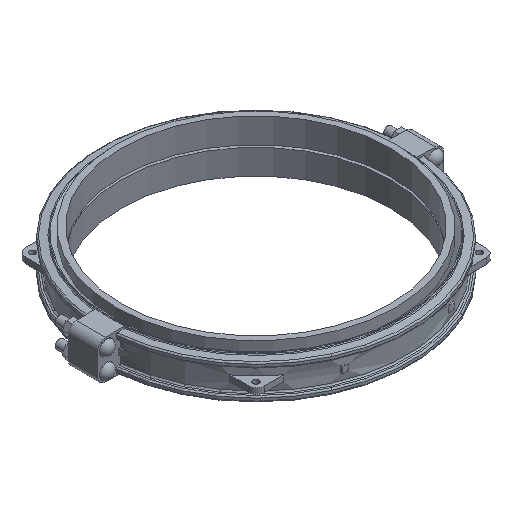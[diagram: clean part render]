
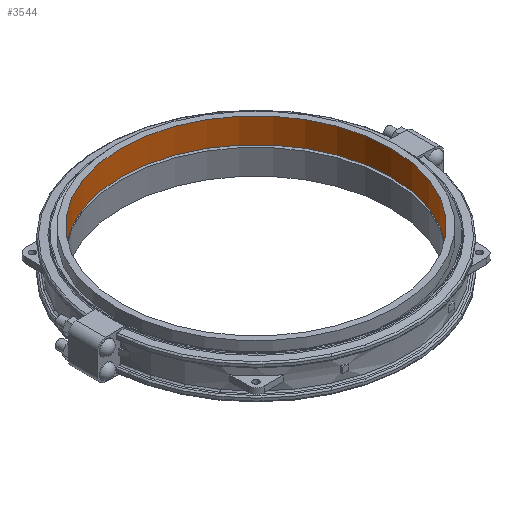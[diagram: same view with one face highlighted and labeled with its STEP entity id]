
A CAD part, isometric view. The second image highlights one B-rep face of the part: STEP entity #3544.
In plain terms, the highlighted cylindrical face has radius 584.2 mm (diameter 1168.4 mm), a full revolution.
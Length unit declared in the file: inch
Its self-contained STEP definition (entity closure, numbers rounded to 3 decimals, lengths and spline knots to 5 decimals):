
#158=CYLINDRICAL_SURFACE('',#3979,23.);
#382=FACE_OUTER_BOUND('',#606,.T.);
#606=EDGE_LOOP('',(#3060,#3061,#3062,#3063,#3064,#3065));
#865=LINE('',#6479,#1122);
#1122=VECTOR('',#4960,23.);
#1291=CIRCLE('',#3977,23.);
#1292=CIRCLE('',#3978,23.);
#1293=CIRCLE('',#3980,23.);
#1294=CIRCLE('',#3981,23.);
#1623=VERTEX_POINT('',#6473);
#1624=VERTEX_POINT('',#6474);
#1625=VERTEX_POINT('',#6478);
#1626=VERTEX_POINT('',#6480);
#2103=EDGE_CURVE('',#1623,#1624,#1291,.T.);
#2104=EDGE_CURVE('',#1624,#1623,#1292,.T.);
#2105=EDGE_CURVE('',#1624,#1625,#865,.T.);
#2106=EDGE_CURVE('',#1626,#1625,#1293,.T.);
#2107=EDGE_CURVE('',#1625,#1626,#1294,.T.);
#3060=ORIENTED_EDGE('',*,*,#2103,.T.);
#3061=ORIENTED_EDGE('',*,*,#2105,.T.);
#3062=ORIENTED_EDGE('',*,*,#2106,.F.);
#3063=ORIENTED_EDGE('',*,*,#2107,.F.);
#3064=ORIENTED_EDGE('',*,*,#2105,.F.);
#3065=ORIENTED_EDGE('',*,*,#2104,.T.);
#3544=ADVANCED_FACE('',(#382),#158,.F.);
#3977=AXIS2_PLACEMENT_3D('',#6475,#4954,#4955);
#3978=AXIS2_PLACEMENT_3D('',#6476,#4956,#4957);
#3979=AXIS2_PLACEMENT_3D('',#6477,#4958,#4959);
#3980=AXIS2_PLACEMENT_3D('',#6481,#4961,#4962);
#3981=AXIS2_PLACEMENT_3D('',#6482,#4963,#4964);
#4954=DIRECTION('center_axis',(0.,0.,-1.));
#4955=DIRECTION('ref_axis',(1.,0.,0.));
#4956=DIRECTION('center_axis',(0.,0.,-1.));
#4957=DIRECTION('ref_axis',(1.,0.,0.));
#4958=DIRECTION('center_axis',(0.,0.,-1.));
#4959=DIRECTION('ref_axis',(0.,1.,0.));
#4960=DIRECTION('',(0.,0.,1.));
#4961=DIRECTION('center_axis',(0.,0.,-1.));
#4962=DIRECTION('ref_axis',(1.,0.,0.));
#4963=DIRECTION('center_axis',(0.,0.,-1.));
#4964=DIRECTION('ref_axis',(1.,0.,0.));
#6473=CARTESIAN_POINT('',(0.,23.,0.));
#6474=CARTESIAN_POINT('',(0.,-23.,0.));
#6475=CARTESIAN_POINT('Origin',(0.,0.,0.));
#6476=CARTESIAN_POINT('Origin',(0.,0.,0.));
#6477=CARTESIAN_POINT('Origin',(0.,0.,2.125));
#6478=CARTESIAN_POINT('',(0.,-23.,4.25));
#6479=CARTESIAN_POINT('',(0.,-23.,2.125));
#6480=CARTESIAN_POINT('',(0.,23.,4.25));
#6481=CARTESIAN_POINT('Origin',(0.,0.,4.25));
#6482=CARTESIAN_POINT('Origin',(0.,0.,4.25));
